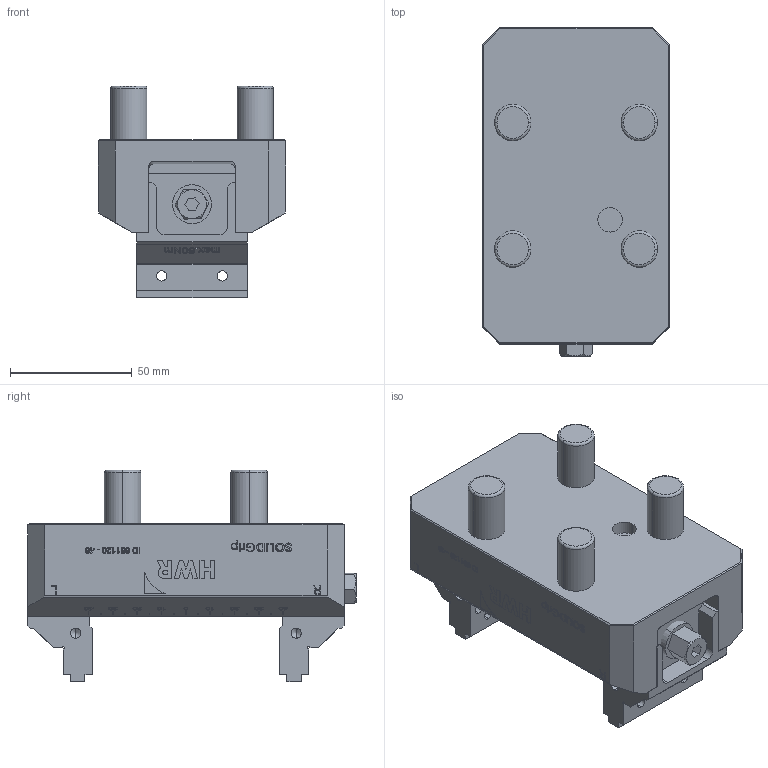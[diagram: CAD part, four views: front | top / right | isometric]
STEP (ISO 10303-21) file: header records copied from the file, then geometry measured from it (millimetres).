
FILE_DESCRIPTION (( 'STEP AP214' ), '1' );
FILE_NAME ('681120-46-Modell.STEP', '2019-11-22T15:54:49', ( '' ), ( '' ), 'SwSTEP 2.0', 'SolidWorks 2018', '' );
FILE_SCHEMA (( 'AUTOMOTIVE_DESIGN' ));
Length unit declared in the file: millimetre
Products named in the file (1): 681120-46-Modell
Bounding box: 77 x 135 x 87 mm (x, y, z)
Volume: 403097.4 mm3; surface area: 64752.4 mm2
Topology: 9 solids, 9 shells, 1792 faces, 4680 edges, 3095 vertices
Faces by surface type: plane 948, bspline 736, cylinder 68, cone 32, torus 8
Entity records: 106272 total; most frequent: CARTESIAN_POINT 47396, ORIENTED_EDGE 9324, DIRECTION 5448, EDGE_CURVE 4662, VERTEX_POINT 3095, LINE 3018, VECTOR 3018, EDGE_LOOP 2011
